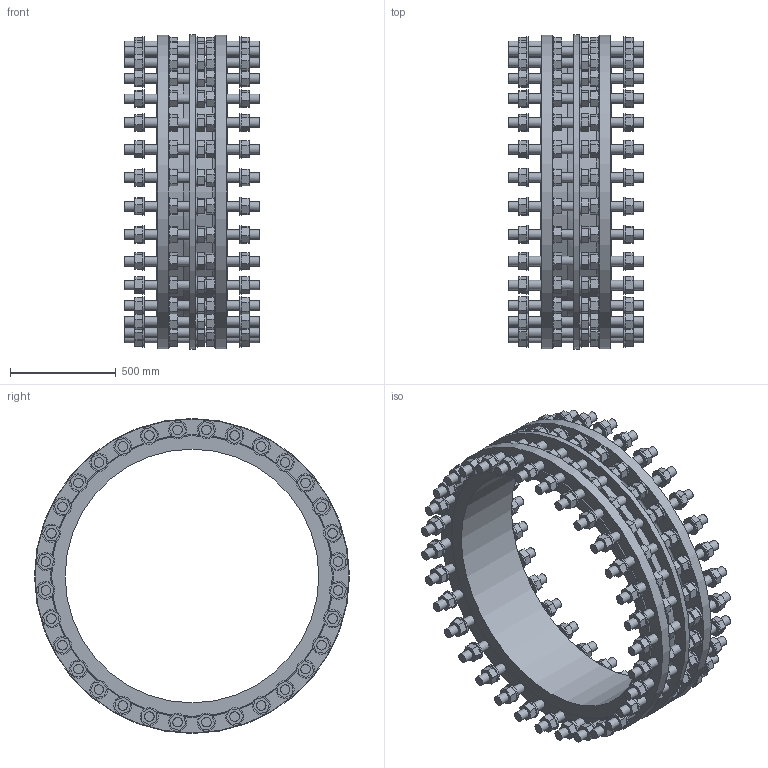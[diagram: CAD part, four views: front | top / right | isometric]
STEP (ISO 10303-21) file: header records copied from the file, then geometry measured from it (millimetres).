
FILE_DESCRIPTION (( 'STEP AP203' ), '1' );
FILE_NAME ('O_265_910_DN1200_1XXXXX00_L=335_REV01.step', '2024-10-11T10:59:21', ( '' ), ( '' ), 'SwSTEP 2.0', 'SolidWorks 2022', '' );
FILE_SCHEMA (( 'CONFIG_CONTROL_DESIGN' ));
Length unit declared in the file: millimetre
Products named in the file (1): O_265_910_DN1200_1XXXXX00_L=335_REV01
Bounding box: 640 x 1490 x 1490 mm (x, y, z)
Volume: 154141370.4 mm3; surface area: 9129070.8 mm2
Topology: 1 solids, 1 shells, 1820 faces, 4300 edges, 2909 vertices
Faces by surface type: plane 1456, cylinder 360, cone 3, torus 1
Full cylindrical faces by diameter (mm): 45 x192, 85 x160, 1200 x1, 1240 x1, 1290 x1, 1485 x2, 1490 x1
Entity records: 49976 total; most frequent: CARTESIAN_POINT 9210, DIRECTION 8145, ORIENTED_EDGE 7554, EDGE_CURVE 3777, LINE 2987, VECTOR 2987, VERTEX_POINT 2748, EDGE_LOOP 2739
